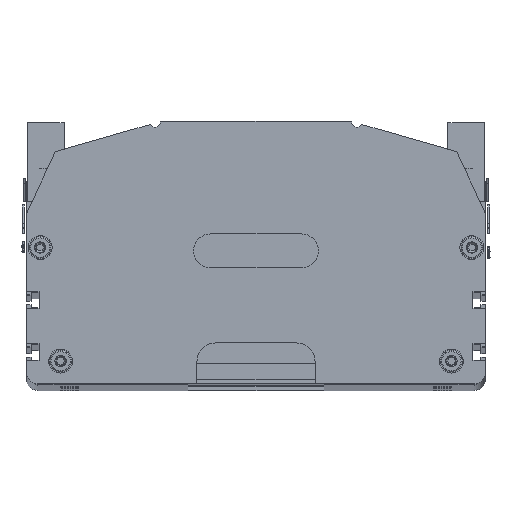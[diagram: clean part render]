
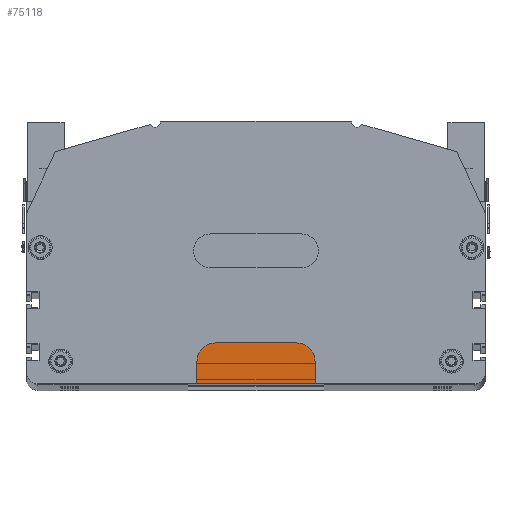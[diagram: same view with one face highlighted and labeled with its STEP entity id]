
A CAD part, top view. The second image highlights one B-rep face of the part: STEP entity #75118.
In plain terms, the highlighted planar face has unit normal (0, 0, 1).
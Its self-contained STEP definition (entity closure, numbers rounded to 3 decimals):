
#51262 = DIRECTION ( 'NONE',  ( 1., 0., 0. ) ) ;
#51263 = VECTOR ( 'NONE', #51262, 1000. ) ;
#51327 = CARTESIAN_POINT ( 'NONE',  ( -26., -32.75, 6. ) ) ;
#51328 = LINE ( 'NONE', #51327, #51263 ) ;
#52063 = CARTESIAN_POINT ( 'NONE',  ( 26., -22.75, 6. ) ) ;
#52092 = CIRCLE ( 'NONE', #52190, 8. ) ;
#52105 = DIRECTION ( 'NONE',  ( 1., 0., 0. ) ) ;
#52106 = DIRECTION ( 'NONE',  ( 0., 0., 1. ) ) ;
#52108 = CARTESIAN_POINT ( 'NONE',  ( 18., -22.75, 6. ) ) ;
#52114 = CIRCLE ( 'NONE', #52154, 8. ) ;
#52154 = AXIS2_PLACEMENT_3D ( 'NONE', #52108, #52106, #52105 ) ;
#52159 = CARTESIAN_POINT ( 'NONE',  ( 18., -14.75, 6. ) ) ;
#52187 = DIRECTION ( 'NONE',  ( 1., 0., 0. ) ) ;
#52188 = DIRECTION ( 'NONE',  ( 0., 0., 1. ) ) ;
#52189 = CARTESIAN_POINT ( 'NONE',  ( -18., -22.75, 6. ) ) ;
#52190 = AXIS2_PLACEMENT_3D ( 'NONE', #52189, #52188, #52187 ) ;
#52265 = CARTESIAN_POINT ( 'NONE',  ( -18., -14.75, 6. ) ) ;
#52266 = LINE ( 'NONE', #52265, #52452 ) ;
#52327 = CARTESIAN_POINT ( 'NONE',  ( -18., -14.75, 6. ) ) ;
#52333 = CARTESIAN_POINT ( 'NONE',  ( -26., -22.75, 6. ) ) ;
#52340 = DIRECTION ( 'NONE',  ( 0., -1., 0. ) ) ;
#52341 = VECTOR ( 'NONE', #52340, 1000. ) ;
#52342 = CARTESIAN_POINT ( 'NONE',  ( -26., -22.75, 6. ) ) ;
#52343 = LINE ( 'NONE', #52342, #52341 ) ;
#52451 = DIRECTION ( 'NONE',  ( -1., 0., 0. ) ) ;
#52452 = VECTOR ( 'NONE', #52451, 1000. ) ;
#52567 = DIRECTION ( 'NONE',  ( 0., 1., 0. ) ) ;
#52568 = VECTOR ( 'NONE', #52567, 1000. ) ;
#52569 = CARTESIAN_POINT ( 'NONE',  ( 26., -22.75, 6. ) ) ;
#52570 = LINE ( 'NONE', #52569, #52568 ) ;
#52577 = AXIS2_PLACEMENT_3D ( 'NONE', #52581, #52580, #52637 ) ;
#52580 = DIRECTION ( 'NONE',  ( 0., 0., 1. ) ) ;
#52581 = CARTESIAN_POINT ( 'NONE',  ( -18., -22.75, 6. ) ) ;
#52637 = DIRECTION ( 'NONE',  ( 1., 0., 0. ) ) ;
#52648 = FACE_OUTER_BOUND ( 'NONE', #74946, .T. ) ;
#52649 = PLANE ( 'NONE',  #52577 ) ;
#57763 = CARTESIAN_POINT ( 'NONE',  ( 26., -32.75, 6. ) ) ;
#57770 = CARTESIAN_POINT ( 'NONE',  ( -26., -32.75, 6. ) ) ;
#74471 = VERTEX_POINT ( 'NONE', #57770 ) ;
#74473 = VERTEX_POINT ( 'NONE', #57763 ) ;
#74569 = EDGE_CURVE ( 'NONE', #74471, #74473, #51328, .T. ) ;
#74920 = VERTEX_POINT ( 'NONE', #52063 ) ;
#74922 = VERTEX_POINT ( 'NONE', #52159 ) ;
#74938 = ORIENTED_EDGE ( 'NONE', *, *, #74947, .T. ) ;
#74946 = EDGE_LOOP ( 'NONE', ( #75024, #74938, #75119, #75150, #75135, #75023 ) ) ;
#74947 = EDGE_CURVE ( 'NONE', #74920, #74922, #52114, .T. ) ;
#74958 = EDGE_CURVE ( 'NONE', #75035, #75049, #52092, .T. ) ;
#75023 = ORIENTED_EDGE ( 'NONE', *, *, #74569, .T. ) ;
#75024 = ORIENTED_EDGE ( 'NONE', *, *, #75172, .T. ) ;
#75031 = EDGE_CURVE ( 'NONE', #75049, #74471, #52343, .T. ) ;
#75035 = VERTEX_POINT ( 'NONE', #52327 ) ;
#75043 = EDGE_CURVE ( 'NONE', #74922, #75035, #52266, .T. ) ;
#75049 = VERTEX_POINT ( 'NONE', #52333 ) ;
#75118 = ADVANCED_FACE ( 'NONE', ( #52648 ), #52649, .T. ) ;
#75119 = ORIENTED_EDGE ( 'NONE', *, *, #75043, .T. ) ;
#75135 = ORIENTED_EDGE ( 'NONE', *, *, #75031, .T. ) ;
#75150 = ORIENTED_EDGE ( 'NONE', *, *, #74958, .T. ) ;
#75172 = EDGE_CURVE ( 'NONE', #74473, #74920, #52570, .T. ) ;
